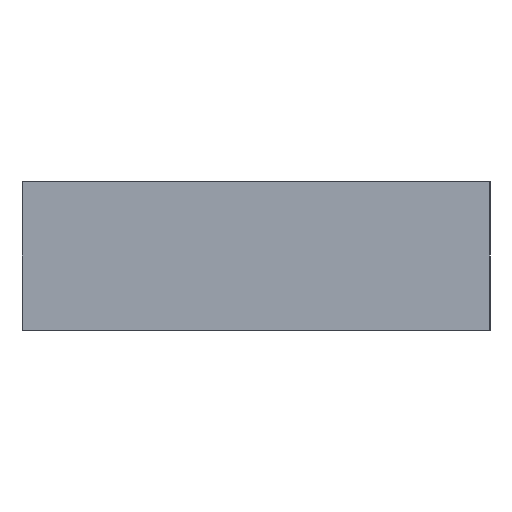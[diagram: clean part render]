
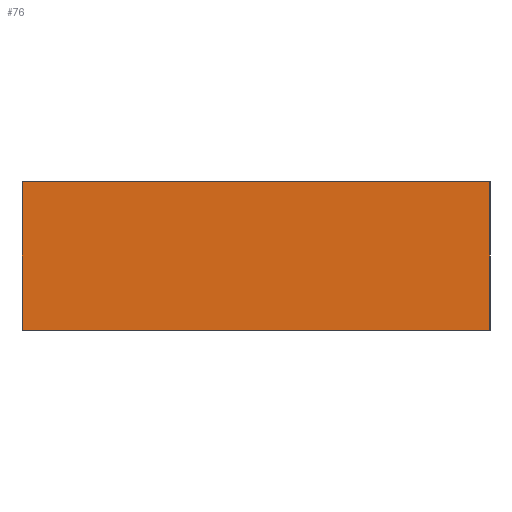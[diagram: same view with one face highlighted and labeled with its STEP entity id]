
A CAD part, left-side view. The second image highlights one B-rep face of the part: STEP entity #76.
In plain terms, the highlighted planar face has unit normal (-1, 0, 0).
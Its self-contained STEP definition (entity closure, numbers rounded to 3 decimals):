
#76 = ADVANCED_FACE( '', ( #106 ), #107, .T. );
#106 = FACE_OUTER_BOUND( '', #195, .T. );
#107 = PLANE( '', #196 );
#195 = EDGE_LOOP( '', ( #289, #290, #291, #292 ) );
#196 = AXIS2_PLACEMENT_3D( '', #293, #294, #295 );
#289 = ORIENTED_EDGE( '', *, *, #464, .T. );
#290 = ORIENTED_EDGE( '', *, *, #465, .F. );
#291 = ORIENTED_EDGE( '', *, *, #466, .F. );
#292 = ORIENTED_EDGE( '', *, *, #467, .T. );
#293 = CARTESIAN_POINT( '', ( -65., 34.5, -20. ) );
#294 = DIRECTION( '', ( -1., 0., 0. ) );
#295 = DIRECTION( '', ( 0., 0., 1. ) );
#464 = EDGE_CURVE( '', #515, #516, #517, .T. );
#465 = EDGE_CURVE( '', #518, #516, #519, .T. );
#466 = EDGE_CURVE( '', #520, #518, #521, .T. );
#467 = EDGE_CURVE( '', #520, #515, #522, .T. );
#515 = VERTEX_POINT( '', #606 );
#516 = VERTEX_POINT( '', #607 );
#517 = LINE( '', #608, #609 );
#518 = VERTEX_POINT( '', #610 );
#519 = LINE( '', #611, #612 );
#520 = VERTEX_POINT( '', #613 );
#521 = LINE( '', #614, #615 );
#522 = LINE( '', #616, #617 );
#606 = CARTESIAN_POINT( '', ( -65., -28.61, -20. ) );
#607 = CARTESIAN_POINT( '', ( -65., -28.61, 0. ) );
#608 = CARTESIAN_POINT( '', ( -65., -28.61, -190. ) );
#609 = VECTOR( '', #706, 1000. );
#610 = CARTESIAN_POINT( '', ( -65., 34.5, 0. ) );
#611 = CARTESIAN_POINT( '', ( -65., 34.5, 0. ) );
#612 = VECTOR( '', #707, 1000. );
#613 = CARTESIAN_POINT( '', ( -65., 34.5, -20. ) );
#614 = CARTESIAN_POINT( '', ( -65., 34.5, -20. ) );
#615 = VECTOR( '', #708, 1000. );
#616 = CARTESIAN_POINT( '', ( -65., 34.5, -20. ) );
#617 = VECTOR( '', #709, 1000. );
#706 = DIRECTION( '', ( 0., 0., 1. ) );
#707 = DIRECTION( '', ( 0., -1., 0. ) );
#708 = DIRECTION( '', ( 0., 0., 1. ) );
#709 = DIRECTION( '', ( 0., -1., 0. ) );
